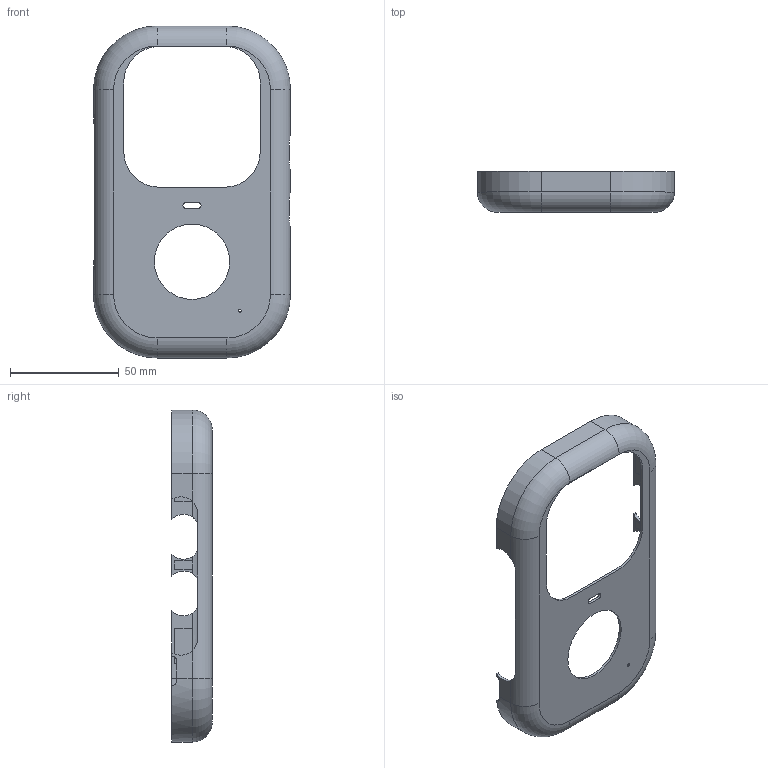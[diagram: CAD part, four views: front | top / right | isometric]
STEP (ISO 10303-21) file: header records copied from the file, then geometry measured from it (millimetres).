
FILE_DESCRIPTION(('Open CASCADE Model'),'2;1');
FILE_NAME('front_grip_skin_finegrain_cream','2026-09-08T13:43:15',( 'Author'),('Open CASCADE'),'Open CASCADE STEP processor 7.8', 'build123d','Unknown');
FILE_SCHEMA(('AUTOMOTIVE_DESIGN { 1 0 10303 214 1 1 1 1 }'));
Length unit declared in the file: millimetre
Products named in the file (2): =>[0:1:1:2]; front_grip_skin_finegrain_cream
Assembly tree (1 placements, depth 2):
  =>[0:1:1:2]
    front_grip_skin_finegrain_cream
Bounding box: 90.4 x 18.6 x 152.4 mm (x, y, z)
Volume: 15331.1 mm3; surface area: 26729.1 mm2
Topology: 1 solids, 1 shells, 99 faces, 264 edges, 167 vertices
Faces by surface type: plane 59, cylinder 32, torus 8
Full cylindrical faces by diameter (mm): 1.2 x1, 34.6 x1
Entity records: 7230 total; most frequent: CARTESIAN_POINT 2017, DIRECTION 950, LINE 577, VECTOR 577, ORIENTED_EDGE 528, PCURVE 528, DEFINITIONAL_REPRESENTATION 528, EDGE_CURVE 264
